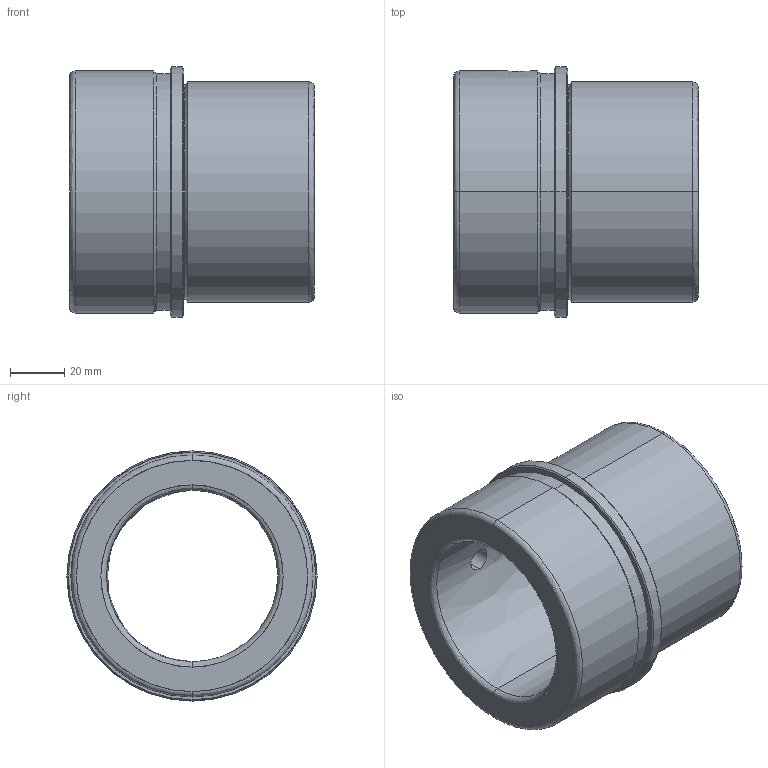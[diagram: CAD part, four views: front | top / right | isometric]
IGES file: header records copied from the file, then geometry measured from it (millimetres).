
Start section: START RECORD GO HERE.
Global section: file name: CF 641 63 x 90.igs; native system: DASSAULT SYSTEMES CATIA V5 R20 - www.3ds.com; preprocessor: CATIA Version 5 Release 20 ; author: Utente; organization: NB04-ASUS; date: 20201226.155248; units: millimetre
Bounding box: 90 x 92 x 92 mm (x, y, z)
Surface area: 49205.1 mm2 (no closed solid volume)
Topology: 0 solids, 0 shells, 37 faces, 250 edges, 250 vertices
Faces by surface type: revolution 32, plane 5
